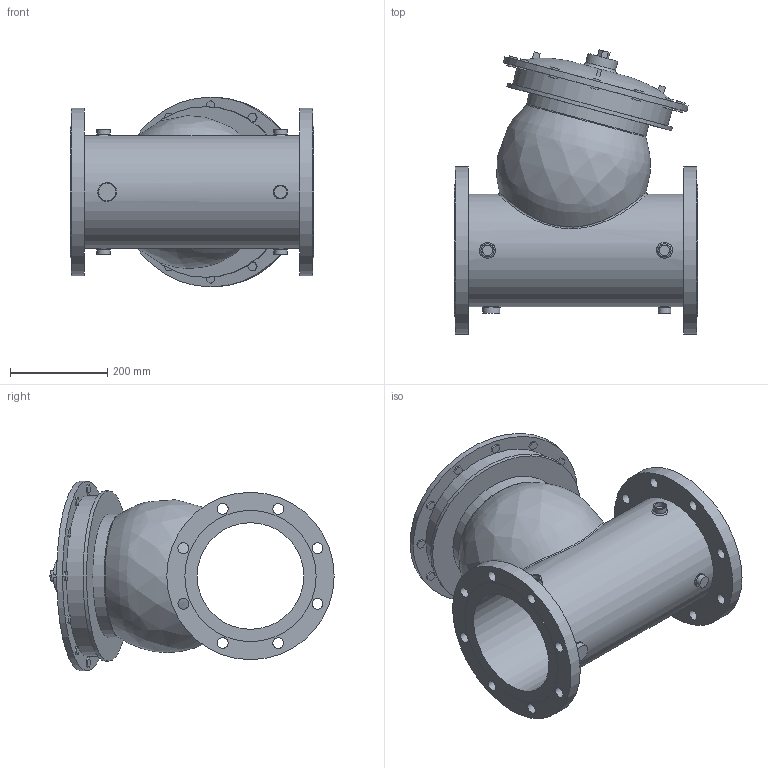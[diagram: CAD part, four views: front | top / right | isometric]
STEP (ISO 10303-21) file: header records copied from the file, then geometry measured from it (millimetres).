
FILE_DESCRIPTION(/* description */ ('VIC FP VALVE PRESSURE RELIEF SERIES 867-7UF (FLG 150)','CAx-IF Rec.Pracs.---Representation and Presentation of Product Manufacturing Information (PMI)---4.0---2014-10-13'),/* implementation_level */ '2;1');
FILE_NAME(/* name */ 'C:\Series 867-7UF\New folder (2)\step\Victaulic_FP-Bermad_Valve Pressure Relief_Series 867-7UF (FLG 150)\Victaulic_FP-Bermad_Valve Pressure Relief_Series 867-7UF (FLG 150)_8 (200).stp',/* time_stamp */ '2021-09-02T12:09:21+06:00',/* author */ ('kkamble'),/* organization */ ('Victaulic'),/* preprocessor_version */ 'ST-DEVELOPER v17.2',/* originating_system */ 'Autodesk Inventor 2019',/* authorisation */ '');
FILE_SCHEMA (('AP242_MANAGED_MODEL_BASED_3D_ENGINEERING_MIM_LF { 1 0 10303 442 1 1 4 }'));
Length unit declared in the file: inch
Products named in the file (1): 867-7UF-08.0
Bounding box: 500.13 x 584.2 x 390.14 mm (x, y, z)
Volume: 25530537.7 mm3; surface area: 1403388.4 mm2
Topology: 1 solids, 1 shells, 264 faces, 676 edges, 459 vertices
Faces by surface type: plane 216, cylinder 37, bspline 9, torus 2
Full cylindrical faces by diameter (mm): 21.336 x4, 22.225 x16, 25.4 x1, 26.873 x4, 35.56 x1, 63.5 x1, 219.075 x1, 231.775 x1, 254 x1, 269.748 x2, 330.2 x1, 343.916 x2, 350.52 x1, 390.144 x1
Entity records: 9550 total; most frequent: CARTESIAN_POINT 2607, ORIENTED_EDGE 1364, DIRECTION 1283, EDGE_CURVE 682, LINE 527, VECTOR 527, VERTEX_POINT 465, AXIS2_PLACEMENT_3D 378
